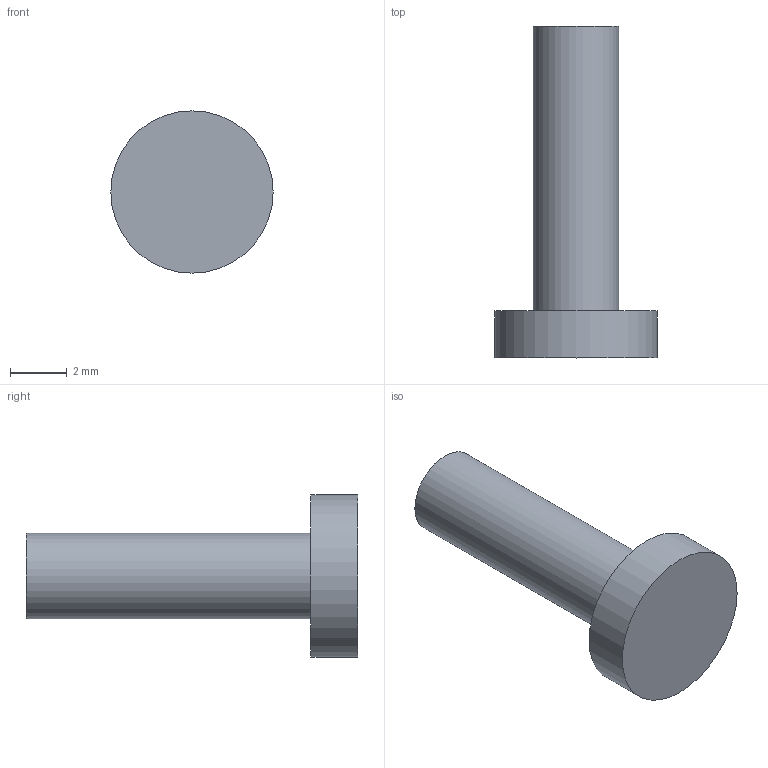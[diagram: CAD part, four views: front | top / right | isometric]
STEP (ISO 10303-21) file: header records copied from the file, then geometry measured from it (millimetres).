
FILE_DESCRIPTION(('Open CASCADE Model'),'2;1');
FILE_NAME('Open CASCADE Shape Model','2026-11-24T19:57:39',('Author'),( 'Open CASCADE'),'Open CASCADE STEP processor 7.8','Open CASCADE 7.8' ,'Unknown');
FILE_SCHEMA(('AUTOMOTIVE_DESIGN { 1 0 10303 214 1 1 1 1 }'));
Length unit declared in the file: millimetre
Products named in the file (1): Open CASCADE STEP translator 7.8 91
Bounding box: 5.7 x 11.65 x 5.7 mm (x, y, z)
Volume: 112.8 mm3; surface area: 174.8 mm2
Topology: 1 solids, 1 shells, 5 faces, 6 edges, 4 vertices
Faces by surface type: plane 3, cylinder 2
Full cylindrical faces by diameter (mm): 3 x1, 5.7 x1
Entity records: 190 total; most frequent: DIRECTION 32, CARTESIAN_POINT 30, ORIENTED_EDGE 12, PCURVE 12, DEFINITIONAL_REPRESENTATION 12, AXIS2_PLACEMENT_3D 10, CIRCLE 8, LINE 8
